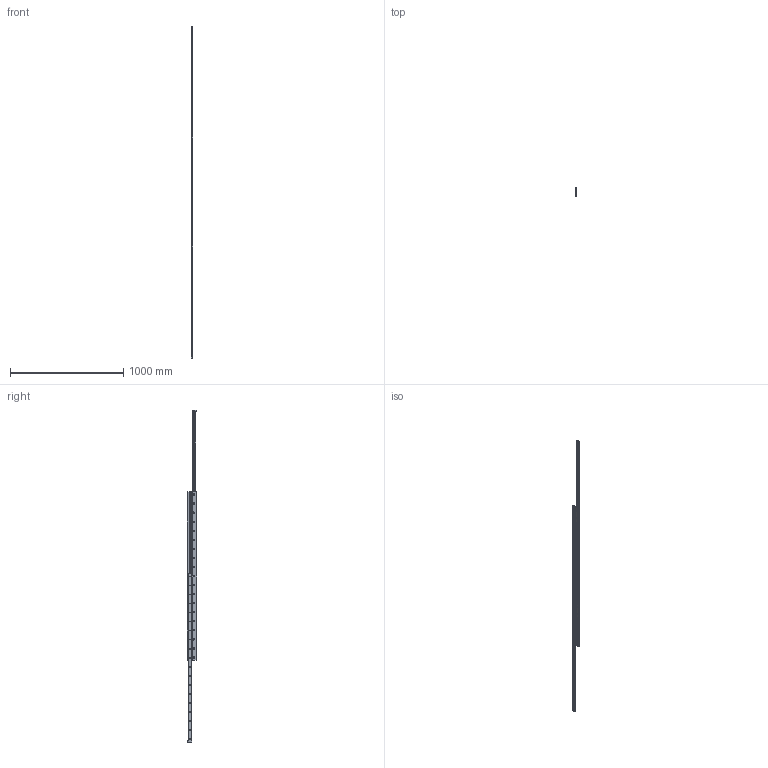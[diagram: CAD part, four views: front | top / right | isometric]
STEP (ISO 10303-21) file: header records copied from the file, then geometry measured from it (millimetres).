
FILE_DESCRIPTION (( 'STEP AP203' ), '1' );
FILE_NAME ('L1984.28D-1490.step', '2018-07-03T12:17:20', ( '' ), ( '' ), 'SwSTEP 2.0', 'SolidWorks 2017', '' );
FILE_SCHEMA (( 'CONFIG_CONTROL_DESIGN' ));
Length unit declared in the file: millimetre
Products named in the file (5): Part1_L1984.28D-1490; L1984.28D-1490; Part3_L1984.28D-1490; Part2_L1984.28D-1490; Part0_L1984.28D-1490
Assembly tree (7 placements, depth 2):
  L1984.28D-1490
    Part0_L1984.28D-1490
    Part2_L1984.28D-1490  x2
    Part1_L1984.28D-1490  x2
    Part3_L1984.28D-1490  x2
Bounding box: 17 x 84 x 2936 mm (x, y, z)
Volume: 1276182.3 mm3; surface area: 876963.3 mm2
Topology: 7 solids, 7 shells, 818 faces, 2062 edges, 1372 vertices
Faces by surface type: plane 536, cone 152, cylinder 130
Entity records: 19106 total; most frequent: CARTESIAN_POINT 3203, DIRECTION 3175, ORIENTED_EDGE 3090, EDGE_CURVE 1545, LINE 1175, VECTOR 1175, VERTEX_POINT 1028, AXIS2_PLACEMENT_3D 1000
